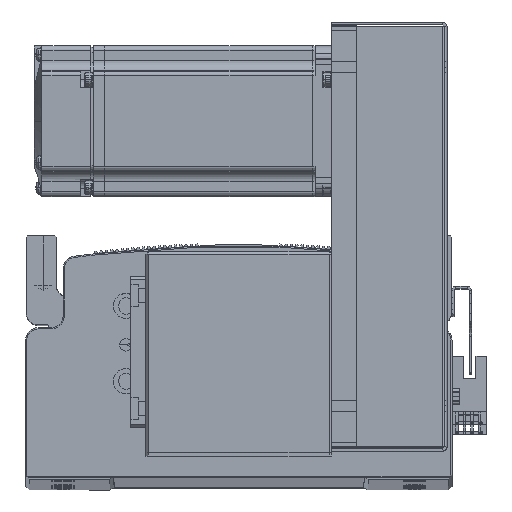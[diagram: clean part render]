
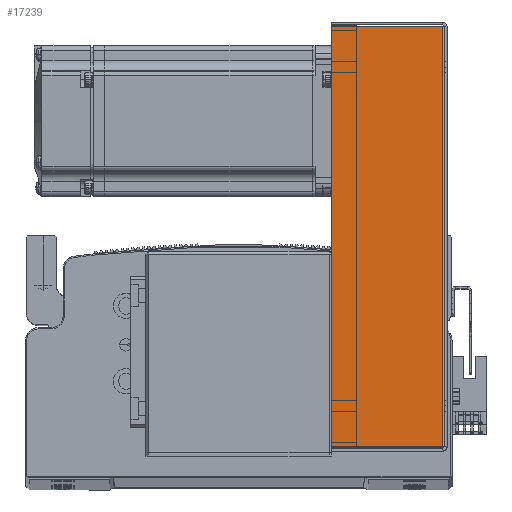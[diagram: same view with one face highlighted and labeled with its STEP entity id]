
A CAD part, top view. The second image highlights one B-rep face of the part: STEP entity #17239.
In plain terms, the highlighted planar face has unit normal (0, 0, 1).
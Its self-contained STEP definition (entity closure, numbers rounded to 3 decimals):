
#1094 = VERTEX_POINT ( 'NONE', #22406 ) ;
#1098 = VERTEX_POINT ( 'NONE', #22045 ) ;
#1107 = VERTEX_POINT ( 'NONE', #22110 ) ;
#1110 = VERTEX_POINT ( 'NONE', #22125 ) ;
#17239 = ADVANCED_FACE ( 'NONE', ( #25702 ), #83337, .F. ) ;
#22045 = CARTESIAN_POINT ( 'NONE',  ( 83.793, 0.737, 40.5 ) ) ;
#22110 = CARTESIAN_POINT ( 'NONE',  ( 83.793, 45., 40.5 ) ) ;
#22125 = CARTESIAN_POINT ( 'NONE',  ( -83.793, 0.737, 40.5 ) ) ;
#22406 = CARTESIAN_POINT ( 'NONE',  ( -83.793, 45., 40.5 ) ) ;
#25447 = ORIENTED_EDGE ( 'NONE', *, *, #54594, .T. ) ;
#25643 = ORIENTED_EDGE ( 'NONE', *, *, #54659, .T. ) ;
#25679 = ORIENTED_EDGE ( 'NONE', *, *, #54698, .F. ) ;
#25702 = FACE_OUTER_BOUND ( 'NONE', #66969, .T. ) ;
#25776 = ORIENTED_EDGE ( 'NONE', *, *, #54705, .F. ) ;
#54594 = EDGE_CURVE ( 'NONE', #1098, #1107, #66140, .T. ) ;
#54659 = EDGE_CURVE ( 'NONE', #1107, #1094, #66213, .T. ) ;
#54698 = EDGE_CURVE ( 'NONE', #1098, #1110, #66260, .T. ) ;
#54705 = EDGE_CURVE ( 'NONE', #1110, #1094, #66291, .T. ) ;
#64741 = CARTESIAN_POINT ( 'NONE',  ( 83.793, 0., 40.5 ) ) ;
#64782 = DIRECTION ( 'NONE',  ( 0., 1., 0. ) ) ;
#64940 = CARTESIAN_POINT ( 'NONE',  ( -84.5, 45., 40.5 ) ) ;
#64943 = DIRECTION ( 'NONE',  ( -1., 0., 0. ) ) ;
#65108 = DIRECTION ( 'NONE',  ( -1., 0., 0. ) ) ;
#65113 = CARTESIAN_POINT ( 'NONE',  ( -83.793, 0., 40.5 ) ) ;
#65118 = DIRECTION ( 'NONE',  ( 0., 1., 0. ) ) ;
#65126 = CARTESIAN_POINT ( 'NONE',  ( 0., 0.737, 40.5 ) ) ;
#66131 = VECTOR ( 'NONE', #64782, 1000. ) ;
#66140 = LINE ( 'NONE', #64741, #66131 ) ;
#66213 = LINE ( 'NONE', #64940, #66231 ) ;
#66231 = VECTOR ( 'NONE', #64943, 1000. ) ;
#66254 = VECTOR ( 'NONE', #65108, 1000. ) ;
#66260 = LINE ( 'NONE', #65126, #66254 ) ;
#66291 = LINE ( 'NONE', #65113, #66315 ) ;
#66315 = VECTOR ( 'NONE', #65118, 1000. ) ;
#66969 = EDGE_LOOP ( 'NONE', ( #25679, #25447, #25643, #25776 ) ) ;
#79241 = AXIS2_PLACEMENT_3D ( 'NONE', #83375, #83298, #83381 ) ;
#83298 = DIRECTION ( 'NONE',  ( 0., 0., -1. ) ) ;
#83337 = PLANE ( 'NONE',  #79241 ) ;
#83375 = CARTESIAN_POINT ( 'NONE',  ( 0., 0., 40.5 ) ) ;
#83381 = DIRECTION ( 'NONE',  ( -1., 0., 0. ) ) ;
